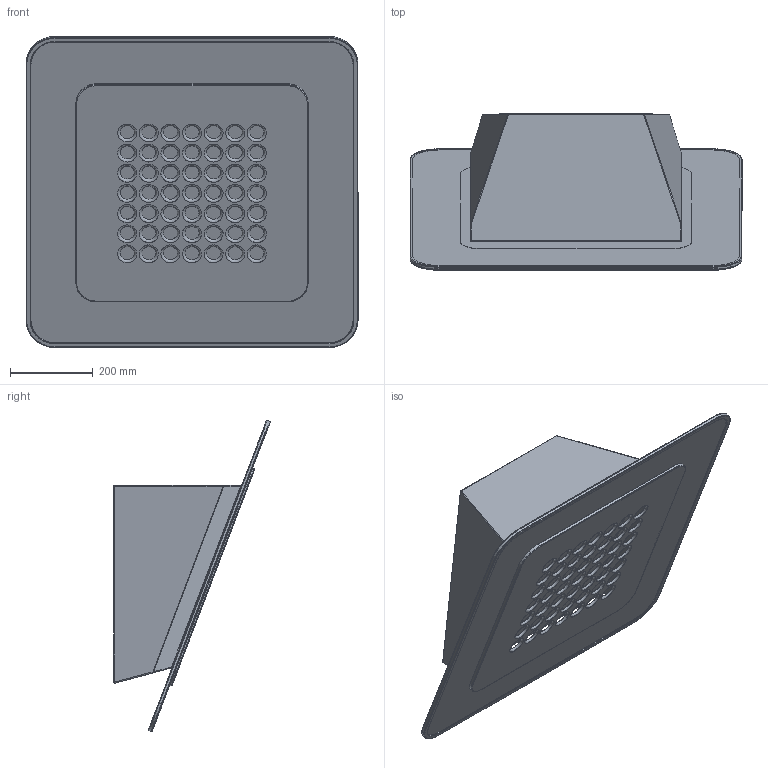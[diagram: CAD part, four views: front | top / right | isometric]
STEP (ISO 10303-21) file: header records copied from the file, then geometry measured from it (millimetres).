
FILE_DESCRIPTION(('STEP AP203'),'2;1');
FILE_NAME('Soo_2014_11.stp','2014-11-16T01:52:31',(''),(''),'2012.1.115','THINKDESIGN','');
FILE_SCHEMA(('CONFIG_CONTROL_DESIGN'));
Bounding box: 800 x 377.18 x 749.85 mm (x, y, z)
Volume: 34636030 mm3; surface area: 3368358.5 mm2
Topology: 8 solids, 8 shells, 445 faces, 1237 edges, 796 vertices
Faces by surface type: bspline 214, cylinder 133, plane 98
Full cylindrical faces by diameter (mm): 34 x1, 36 x1
Entity records: 53469 total; most frequent: CARTESIAN_POINT 42471, ORIENTED_EDGE 2438, DIRECTION 2005, EDGE_CURVE 1219, AXIS2_PLACEMENT_3D 799, VERTEX_POINT 796, CIRCLE 568, EDGE_LOOP 555
